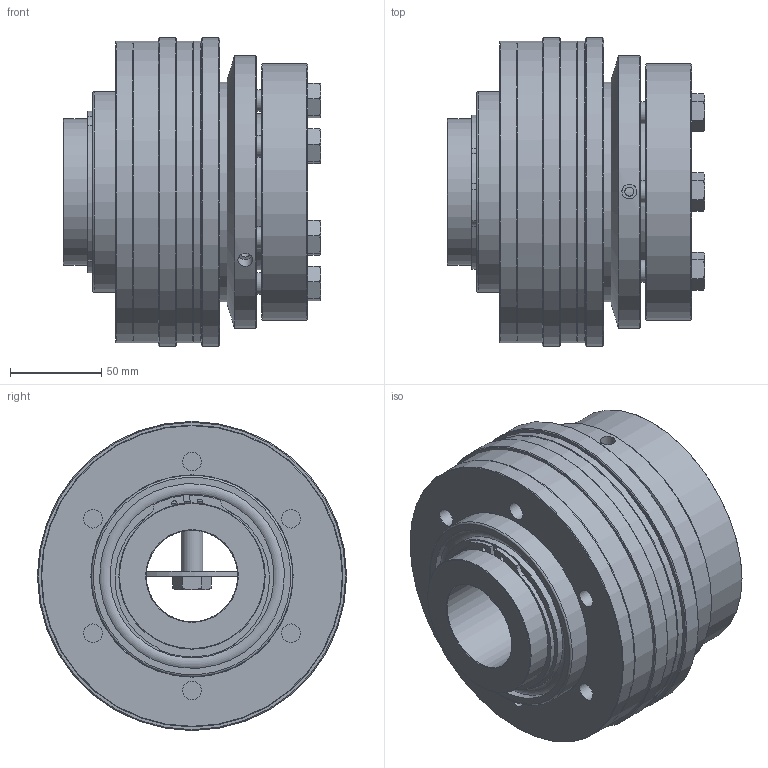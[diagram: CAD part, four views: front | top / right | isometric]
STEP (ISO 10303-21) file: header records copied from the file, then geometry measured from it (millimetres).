
FILE_DESCRIPTION( ( 'Unknown' ), '1' );
FILE_NAME( 'C:/Dokumente und Einstellungen/Sven/Desktop/hp kbk/KBK LL-A-1400.stp', 'Unknown', ( 'Unknown' ), ( 'Unknown' ), 'XStep 1.0', 'Unknown', ' ' );
FILE_SCHEMA( ( 'automotive_design' ) );
Length unit declared in the file: millimetre
Products named in the file (12): Assem1; Assem2; ball_bearing_-_61916_0_01; ball_bearing_-_61916_0_02; ball_bearing_-_61916_0_03; Stellring 800; Druckring 800; a_80; Druckring L-A-800; din_en_24017_m12x40; KBK LL-A-800 Grundkörper; Flansch 800
Bounding box: 141 x 169 x 169 mm (x, y, z)
Volume: 3245570.3 mm3; surface area: 672256 mm2
Topology: 32 solids, 32 shells, 528 faces, 1108 edges, 705 vertices
Faces by surface type: plane 209, cylinder 164, cone 116, torus 39
Full cylindrical faces by diameter (mm): 3 x6, 4.917 x6, 6.2 x6, 8.1 x6, 10.106 x24, 12 x7, 14 x12, 16.63 x7, 50 x2, 76.5 x4, 80 x10, 85.816 x2, 89.6 x8, 100 x2, 101 x8, 110 x6, 120 x4, 135 x2, 140 x2, 148 x2, 149 x2, 165 x4, 169 x2
Entity records: 5089 total; most frequent: CARTESIAN_POINT 1177, DIRECTION 836, ORIENTED_EDGE 542, AXIS2_PLACEMENT_3D 388, EDGE_LOOP 336, EDGE_CURVE 271, FACE_OUTER_BOUND 247, VERTEX_POINT 223
